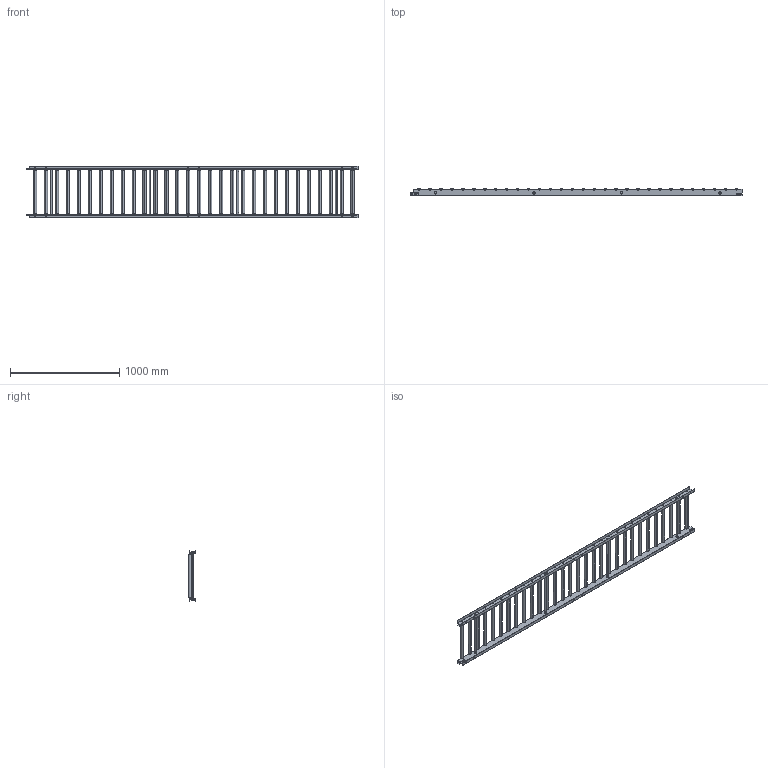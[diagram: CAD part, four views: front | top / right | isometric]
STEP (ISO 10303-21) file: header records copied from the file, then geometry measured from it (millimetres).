
FILE_DESCRIPTION (( 'STEP AP203' ), '1' );
FILE_NAME ('RA-2816.step', '2024-02-26T06:38:05', ( '' ), ( '' ), 'SwSTEP 2.0', 'SolidWorks 2023', '' );
FILE_SCHEMA (( 'CONFIG_CONTROL_DESIGN' ));
Length unit declared in the file: millimetre
Products named in the file (1): RA-2816
Bounding box: 3033 x 66.28 x 475 mm (x, y, z)
Volume: 9263688.4 mm3; surface area: 3570819 mm2
Topology: 84 solids, 84 shells, 1300 faces, 2992 edges, 1928 vertices
Faces by surface type: cylinder 634, plane 498, torus 120, cone 48
Entity records: 38295 total; most frequent: DIRECTION 7142, CARTESIAN_POINT 6893, ORIENTED_EDGE 5984, EDGE_CURVE 2992, AXIS2_PLACEMENT_3D 2977, VERTEX_POINT 1928, EDGE_LOOP 1692, CIRCLE 1676
